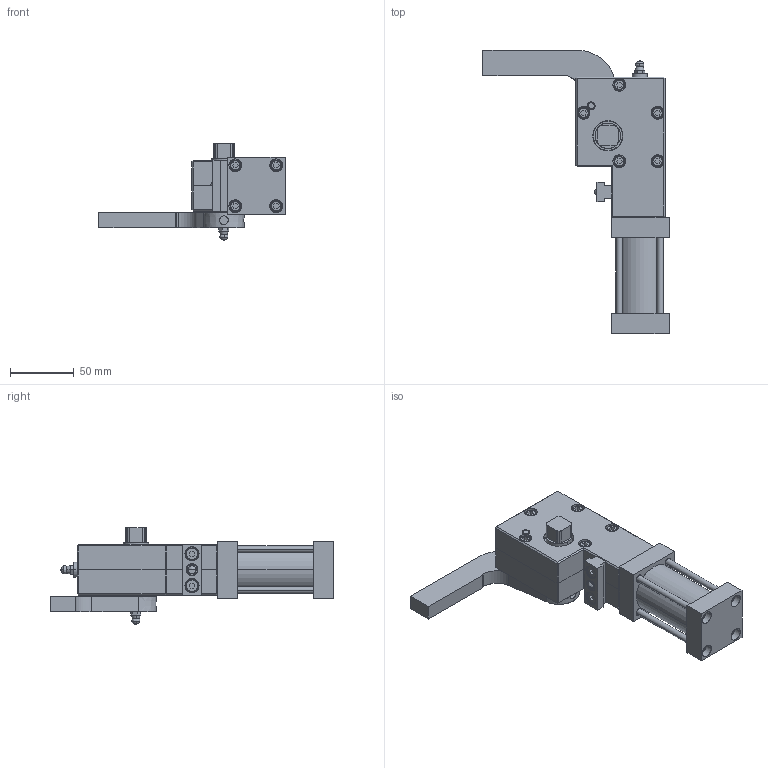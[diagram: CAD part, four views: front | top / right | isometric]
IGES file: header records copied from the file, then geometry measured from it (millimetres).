
Start section: SolidWorks IGES file using analytic representation for surfaces
Bounding box: 145.93 x 222.02 x 75.8 mm (x, y, z)
Surface area: 115733.2 mm2 (no closed solid volume)
Topology: 0 solids, 0 shells, 745 faces, 9667 edges, 9631 vertices
Faces by surface type: revolution 397, bspline 348
